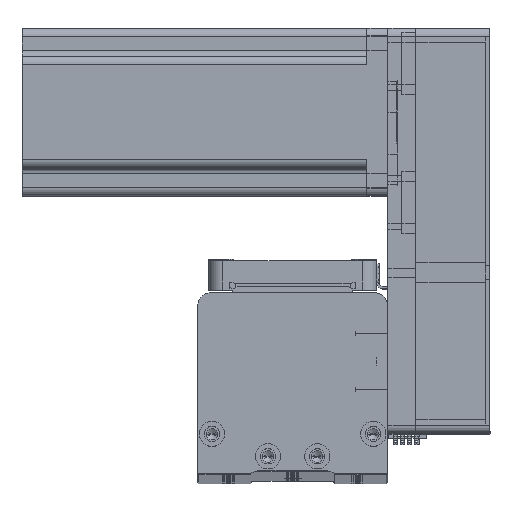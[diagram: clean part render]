
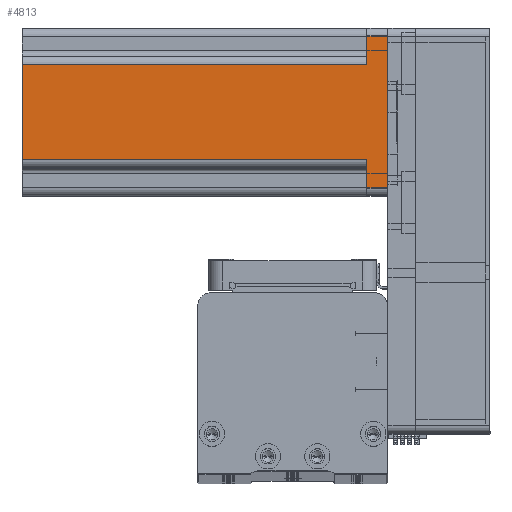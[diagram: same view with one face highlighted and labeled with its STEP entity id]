
A CAD part, top view. The second image highlights one B-rep face of the part: STEP entity #4813.
In plain terms, the highlighted planar face has unit normal (0, 0, 1) as drawn and (0, -1, 0) by its records, which use the part's own axes.
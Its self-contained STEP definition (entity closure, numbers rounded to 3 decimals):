
#506 = ORIENTED_EDGE ( 'NONE', *, *, #19328, .F. ) ;
#1603 = LINE ( 'NONE', #41160, #10281 ) ;
#2506 = DIRECTION ( 'NONE',  ( -1., 0., 0. ) ) ;
#3364 = LINE ( 'NONE', #29104, #26260 ) ;
#3682 = EDGE_CURVE ( 'NONE', #53439, #48977, #35382, .T. ) ;
#3835 = DIRECTION ( 'NONE',  ( 0., 0., 1. ) ) ;
#4813 = ADVANCED_FACE ( 'NONE', ( #29021 ), #22100, .F. ) ;
#5195 = DIRECTION ( 'NONE',  ( 0., 1., 0. ) ) ;
#5863 = EDGE_CURVE ( 'NONE', #42215, #18716, #34161, .T. ) ;
#6632 = ORIENTED_EDGE ( 'NONE', *, *, #12460, .T. ) ;
#6745 = CARTESIAN_POINT ( 'NONE',  ( 17., -30., 7.5 ) ) ;
#8062 = CARTESIAN_POINT ( 'NONE',  ( 30., -30., 0. ) ) ;
#8235 = DIRECTION ( 'NONE',  ( 1., 0., 0. ) ) ;
#9304 = DIRECTION ( 'NONE',  ( 0., 0., 1. ) ) ;
#9856 = VECTOR ( 'NONE', #14650, 1000. ) ;
#10281 = VECTOR ( 'NONE', #2506, 1000. ) ;
#11615 = EDGE_CURVE ( 'NONE', #18716, #38034, #19865, .T. ) ;
#11775 = DIRECTION ( 'NONE',  ( 0., 0., -1. ) ) ;
#12460 = EDGE_CURVE ( 'NONE', #38034, #52610, #1603, .T. ) ;
#13706 = EDGE_CURVE ( 'NONE', #47028, #42215, #3364, .T. ) ;
#14360 = EDGE_LOOP ( 'NONE', ( #27352, #38916, #506, #41752, #47743, #37157, #6632, #26680 ) ) ;
#14650 = DIRECTION ( 'NONE',  ( 1., 0., 0. ) ) ;
#18241 = CARTESIAN_POINT ( 'NONE',  ( -27., -30., 0. ) ) ;
#18716 = VERTEX_POINT ( 'NONE', #25985 ) ;
#19328 = EDGE_CURVE ( 'NONE', #47028, #47633, #22667, .T. ) ;
#19865 = LINE ( 'NONE', #34705, #41331 ) ;
#22100 = PLANE ( 'NONE',  #40141 ) ;
#22667 = LINE ( 'NONE', #31723, #9856 ) ;
#22802 = CARTESIAN_POINT ( 'NONE',  ( -27., -30., 7.5 ) ) ;
#23373 = LINE ( 'NONE', #50924, #33401 ) ;
#23971 = VECTOR ( 'NONE', #24626, 1000. ) ;
#24626 = DIRECTION ( 'NONE',  ( 1., 0., 0. ) ) ;
#25640 = EDGE_CURVE ( 'NONE', #52610, #48977, #23373, .T. ) ;
#25985 = CARTESIAN_POINT ( 'NONE',  ( 27., -30., 0. ) ) ;
#26260 = VECTOR ( 'NONE', #11775, 1000. ) ;
#26680 = ORIENTED_EDGE ( 'NONE', *, *, #25640, .T. ) ;
#27352 = ORIENTED_EDGE ( 'NONE', *, *, #3682, .F. ) ;
#29021 = FACE_OUTER_BOUND ( 'NONE', #14360, .T. ) ;
#29104 = CARTESIAN_POINT ( 'NONE',  ( -27., -30., 130.7 ) ) ;
#29524 = CARTESIAN_POINT ( 'NONE',  ( 27., -30., 7.5 ) ) ;
#30940 = CARTESIAN_POINT ( 'NONE',  ( 30., -30., 130.7 ) ) ;
#31357 = CARTESIAN_POINT ( 'NONE',  ( -17., -30., 130.7 ) ) ;
#31723 = CARTESIAN_POINT ( 'NONE',  ( -20., -30., 7.5 ) ) ;
#32797 = VECTOR ( 'NONE', #8235, 1000. ) ;
#33401 = VECTOR ( 'NONE', #3835, 1000. ) ;
#33506 = EDGE_CURVE ( 'NONE', #53439, #47633, #36393, .T. ) ;
#34161 = LINE ( 'NONE', #8062, #32797 ) ;
#34705 = CARTESIAN_POINT ( 'NONE',  ( 27., -30., 130.7 ) ) ;
#35042 = VECTOR ( 'NONE', #35699, 1000. ) ;
#35259 = DIRECTION ( 'NONE',  ( -1., 0., 0. ) ) ;
#35382 = LINE ( 'NONE', #41673, #23971 ) ;
#35699 = DIRECTION ( 'NONE',  ( 0., 0., -1. ) ) ;
#36393 = LINE ( 'NONE', #31357, #35042 ) ;
#37157 = ORIENTED_EDGE ( 'NONE', *, *, #11615, .T. ) ;
#38034 = VERTEX_POINT ( 'NONE', #29524 ) ;
#38916 = ORIENTED_EDGE ( 'NONE', *, *, #33506, .T. ) ;
#40141 = AXIS2_PLACEMENT_3D ( 'NONE', #30940, #5195, #35259 ) ;
#41160 = CARTESIAN_POINT ( 'NONE',  ( 20., -30., 7.5 ) ) ;
#41331 = VECTOR ( 'NONE', #9304, 1000. ) ;
#41673 = CARTESIAN_POINT ( 'NONE',  ( 30., -30., 130.7 ) ) ;
#41752 = ORIENTED_EDGE ( 'NONE', *, *, #13706, .T. ) ;
#42215 = VERTEX_POINT ( 'NONE', #18241 ) ;
#47028 = VERTEX_POINT ( 'NONE', #22802 ) ;
#47633 = VERTEX_POINT ( 'NONE', #52767 ) ;
#47743 = ORIENTED_EDGE ( 'NONE', *, *, #5863, .T. ) ;
#48977 = VERTEX_POINT ( 'NONE', #53109 ) ;
#50924 = CARTESIAN_POINT ( 'NONE',  ( 17., -30., 130.7 ) ) ;
#52610 = VERTEX_POINT ( 'NONE', #6745 ) ;
#52767 = CARTESIAN_POINT ( 'NONE',  ( -17., -30., 7.5 ) ) ;
#53109 = CARTESIAN_POINT ( 'NONE',  ( 17., -30., 130.7 ) ) ;
#53439 = VERTEX_POINT ( 'NONE', #55409 ) ;
#55409 = CARTESIAN_POINT ( 'NONE',  ( -17., -30., 130.7 ) ) ;
